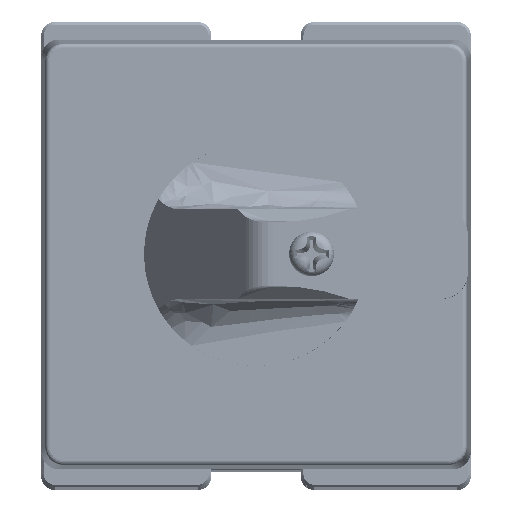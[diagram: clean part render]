
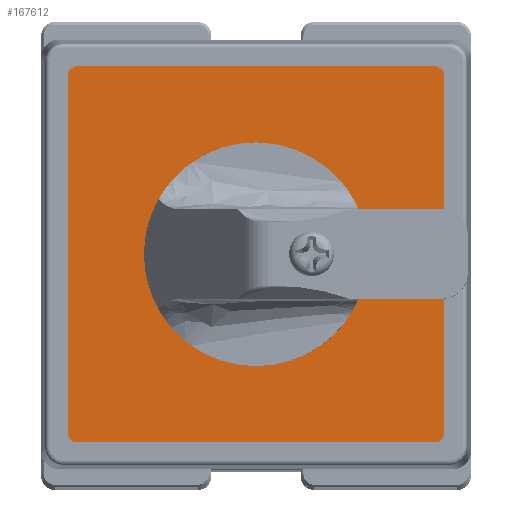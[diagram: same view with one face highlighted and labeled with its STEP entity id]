
A CAD part, top view. The second image highlights one B-rep face of the part: STEP entity #167612.
In plain terms, the highlighted planar face has unit normal (0, 0, 1).
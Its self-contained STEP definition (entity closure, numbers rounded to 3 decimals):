
#7985 = CARTESIAN_POINT ( 'NONE',  ( 6.361, -5.111, 35.018 ) ) ;
#15936 = VERTEX_POINT ( 'NONE', #281494 ) ;
#27497 = EDGE_CURVE ( 'NONE', #183579, #375844, #344857, .T. ) ;
#28215 = CARTESIAN_POINT ( 'NONE',  ( -13.639, 15.889, 35.018 ) ) ;
#37862 = VECTOR ( 'NONE', #294532, 1000. ) ;
#42459 = AXIS2_PLACEMENT_3D ( 'NONE', #298522, #114834, #42683 ) ;
#42683 = DIRECTION ( 'NONE',  ( 0., -1., 0. ) ) ;
#43002 = DIRECTION ( 'NONE',  ( 0., 1., 0. ) ) ;
#46301 = CARTESIAN_POINT ( 'NONE',  ( -13.639, -25.111, 35.018 ) ) ;
#60052 = EDGE_CURVE ( 'NONE', #382900, #15936, #89203, .T. ) ;
#64444 = ORIENTED_EDGE ( 'NONE', *, *, #221821, .F. ) ;
#65520 = AXIS2_PLACEMENT_3D ( 'NONE', #69240, #144463, #468852 ) ;
#69240 = CARTESIAN_POINT ( 'NONE',  ( 26.361, 14.889, 35.018 ) ) ;
#72088 = DIRECTION ( 'NONE',  ( 0., 0., 1. ) ) ;
#76058 = ORIENTED_EDGE ( 'NONE', *, *, #192884, .T. ) ;
#78479 = DIRECTION ( 'NONE',  ( 0., -1., 0. ) ) ;
#83279 = DIRECTION ( 'NONE',  ( 0., 0., 1. ) ) ;
#88457 = CARTESIAN_POINT ( 'NONE',  ( 6.361, -5.111, 35.018 ) ) ;
#89203 = CIRCLE ( 'NONE', #285974, 1. ) ;
#89991 = DIRECTION ( 'NONE',  ( 0., 1., 0. ) ) ;
#104060 = AXIS2_PLACEMENT_3D ( 'NONE', #105794, #72088, #216174 ) ;
#105794 = CARTESIAN_POINT ( 'NONE',  ( -13.639, 14.889, 35.018 ) ) ;
#110594 = VECTOR ( 'NONE', #189229, 1000. ) ;
#114834 = DIRECTION ( 'NONE',  ( 0., 0., 1. ) ) ;
#115320 = DIRECTION ( 'NONE',  ( 0., 1., 0. ) ) ;
#116784 = CARTESIAN_POINT ( 'NONE',  ( -13.639, 14.889, 35.018 ) ) ;
#122217 = CARTESIAN_POINT ( 'NONE',  ( -13.639, 15.889, 35.018 ) ) ;
#130038 = ORIENTED_EDGE ( 'NONE', *, *, #27497, .T. ) ;
#130248 = DIRECTION ( 'NONE',  ( 1., 0., 0. ) ) ;
#131662 = ORIENTED_EDGE ( 'NONE', *, *, #456985, .T. ) ;
#144463 = DIRECTION ( 'NONE',  ( 0., 0., 1. ) ) ;
#146401 = CARTESIAN_POINT ( 'NONE',  ( 6.361, 5.239, 35.018 ) ) ;
#154710 = AXIS2_PLACEMENT_3D ( 'NONE', #7985, #404482, #115320 ) ;
#161912 = CARTESIAN_POINT ( 'NONE',  ( 27.361, -25.111, 35.018 ) ) ;
#165910 = CARTESIAN_POINT ( 'NONE',  ( 26.361, 15.889, 35.018 ) ) ;
#167612 = ADVANCED_FACE ( 'NONE', ( #413222, #281646 ), #326176, .T. ) ;
#168585 = CARTESIAN_POINT ( 'NONE',  ( -13.639, -26.111, 35.018 ) ) ;
#172608 = ORIENTED_EDGE ( 'NONE', *, *, #277455, .T. ) ;
#175842 = CARTESIAN_POINT ( 'NONE',  ( 26.361, -26.111, 35.018 ) ) ;
#183579 = VERTEX_POINT ( 'NONE', #276401 ) ;
#183624 = EDGE_LOOP ( 'NONE', ( #64444, #265042 ) ) ;
#189229 = DIRECTION ( 'NONE',  ( 0., 1., 0. ) ) ;
#192884 = EDGE_CURVE ( 'NONE', #243949, #379456, #336569, .T. ) ;
#209631 = LINE ( 'NONE', #366331, #37862 ) ;
#212250 = VERTEX_POINT ( 'NONE', #165910 ) ;
#215214 = LINE ( 'NONE', #122217, #397971 ) ;
#216174 = DIRECTION ( 'NONE',  ( 0., 1., 0. ) ) ;
#221821 = EDGE_CURVE ( 'NONE', #243999, #461673, #326293, .T. ) ;
#224954 = ORIENTED_EDGE ( 'NONE', *, *, #274703, .T. ) ;
#236963 = AXIS2_PLACEMENT_3D ( 'NONE', #88457, #312026, #89991 ) ;
#243949 = VERTEX_POINT ( 'NONE', #175842 ) ;
#243999 = VERTEX_POINT ( 'NONE', #292353 ) ;
#245050 = EDGE_LOOP ( 'NONE', ( #294749, #172608, #130038, #383638, #76058, #326767, #131662, #224954 ) ) ;
#264257 = EDGE_CURVE ( 'NONE', #375844, #243949, #376277, .T. ) ;
#265042 = ORIENTED_EDGE ( 'NONE', *, *, #411556, .F. ) ;
#269924 = CIRCLE ( 'NONE', #154710, 10.35 ) ;
#274703 = EDGE_CURVE ( 'NONE', #212250, #382900, #215214, .T. ) ;
#276401 = CARTESIAN_POINT ( 'NONE',  ( -14.639, -25.111, 35.018 ) ) ;
#277455 = EDGE_CURVE ( 'NONE', #15936, #183579, #209631, .T. ) ;
#281494 = CARTESIAN_POINT ( 'NONE',  ( -14.639, 14.889, 35.018 ) ) ;
#281646 = FACE_BOUND ( 'NONE', #183624, .T. ) ;
#282656 = AXIS2_PLACEMENT_3D ( 'NONE', #46301, #83279, #78479 ) ;
#285974 = AXIS2_PLACEMENT_3D ( 'NONE', #116784, #335503, #43002 ) ;
#287145 = CARTESIAN_POINT ( 'NONE',  ( -13.639, -26.111, 35.018 ) ) ;
#292353 = CARTESIAN_POINT ( 'NONE',  ( 6.361, -15.461, 35.018 ) ) ;
#294532 = DIRECTION ( 'NONE',  ( 0., -1., 0. ) ) ;
#294749 = ORIENTED_EDGE ( 'NONE', *, *, #60052, .T. ) ;
#298522 = CARTESIAN_POINT ( 'NONE',  ( 26.361, -25.111, 35.018 ) ) ;
#302167 = EDGE_CURVE ( 'NONE', #379456, #387449, #373732, .T. ) ;
#312026 = DIRECTION ( 'NONE',  ( 0., 0., 1. ) ) ;
#324838 = VECTOR ( 'NONE', #130248, 1000. ) ;
#326176 = PLANE ( 'NONE',  #104060 ) ;
#326293 = CIRCLE ( 'NONE', #236963, 10.35 ) ;
#326767 = ORIENTED_EDGE ( 'NONE', *, *, #302167, .T. ) ;
#335503 = DIRECTION ( 'NONE',  ( 0., 0., 1. ) ) ;
#336569 = CIRCLE ( 'NONE', #42459, 1. ) ;
#340891 = DIRECTION ( 'NONE',  ( -1., 0., 0. ) ) ;
#344857 = CIRCLE ( 'NONE', #282656, 1. ) ;
#361723 = CIRCLE ( 'NONE', #65520, 1. ) ;
#366331 = CARTESIAN_POINT ( 'NONE',  ( -14.639, -25.111, 35.018 ) ) ;
#366811 = CARTESIAN_POINT ( 'NONE',  ( 27.361, 14.889, 35.018 ) ) ;
#373732 = LINE ( 'NONE', #408131, #110594 ) ;
#375844 = VERTEX_POINT ( 'NONE', #287145 ) ;
#376277 = LINE ( 'NONE', #168585, #324838 ) ;
#379456 = VERTEX_POINT ( 'NONE', #161912 ) ;
#382900 = VERTEX_POINT ( 'NONE', #28215 ) ;
#383638 = ORIENTED_EDGE ( 'NONE', *, *, #264257, .T. ) ;
#387449 = VERTEX_POINT ( 'NONE', #366811 ) ;
#397971 = VECTOR ( 'NONE', #340891, 1000. ) ;
#404482 = DIRECTION ( 'NONE',  ( 0., 0., 1. ) ) ;
#408131 = CARTESIAN_POINT ( 'NONE',  ( 27.361, -25.111, 35.018 ) ) ;
#411556 = EDGE_CURVE ( 'NONE', #461673, #243999, #269924, .T. ) ;
#413222 = FACE_OUTER_BOUND ( 'NONE', #245050, .T. ) ;
#456985 = EDGE_CURVE ( 'NONE', #387449, #212250, #361723, .T. ) ;
#461673 = VERTEX_POINT ( 'NONE', #146401 ) ;
#468852 = DIRECTION ( 'NONE',  ( 0., -1., 0. ) ) ;
